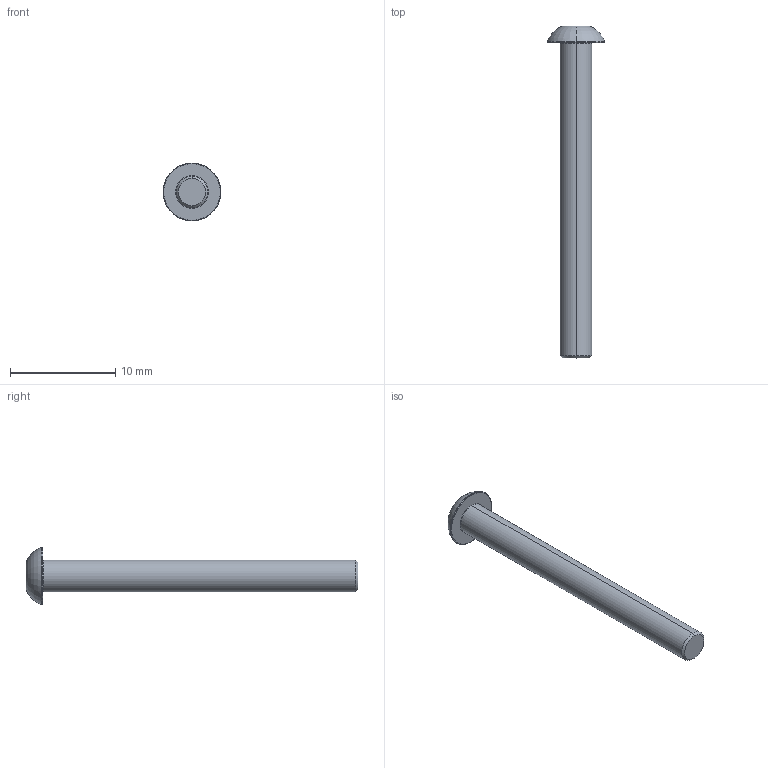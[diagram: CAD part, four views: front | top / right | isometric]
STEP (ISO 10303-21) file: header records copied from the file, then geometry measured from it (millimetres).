
FILE_DESCRIPTION (( 'STEP AP203' ), '1' );
FILE_NAME ('LGDD-TD-M3x30.STEP', '2026-08-13T14:32:07', ( '' ), ( '' ), 'SwSTEP 2.0', 'SolidWorks 2020', '' );
FILE_SCHEMA (( 'CONFIG_CONTROL_DESIGN' ));
Length unit declared in the file: millimetre
Products named in the file (1): LGDD-TD-M3x30
Bounding box: 5.5 x 31.6 x 5.5 mm (x, y, z)
Volume: 233.5 mm3; surface area: 349.8 mm2
Topology: 1 solids, 1 shells, 31 faces, 59 edges, 32 vertices
Faces by surface type: plane 10, cone 9, torus 8, cylinder 4
Entity records: 876 total; most frequent: CARTESIAN_POINT 166, DIRECTION 149, ORIENTED_EDGE 118, AXIS2_PLACEMENT_3D 65, EDGE_CURVE 59, CIRCLE 33, EDGE_LOOP 33, VERTEX_POINT 32
